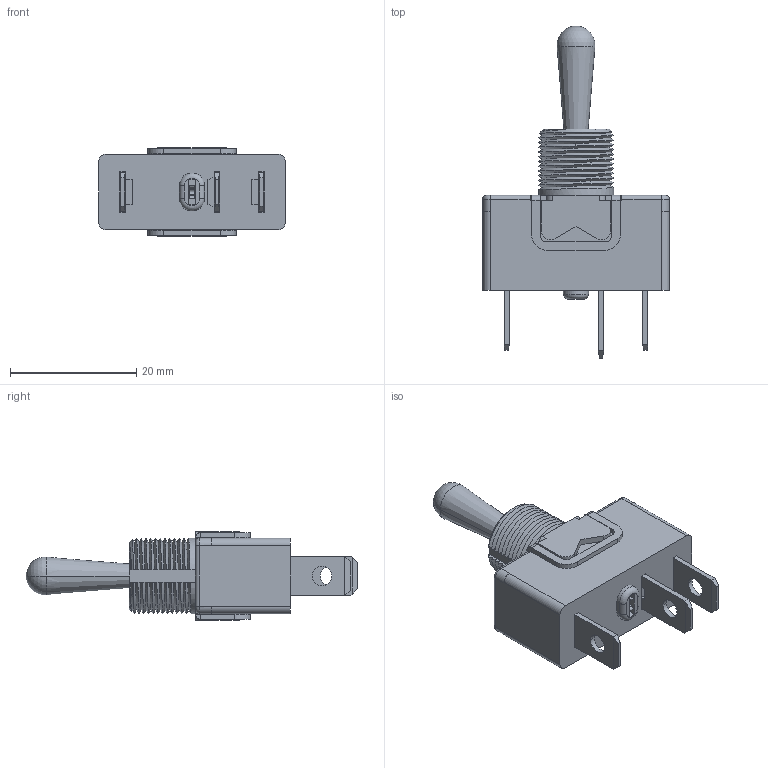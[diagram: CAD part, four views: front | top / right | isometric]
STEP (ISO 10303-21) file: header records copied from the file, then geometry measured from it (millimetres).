
FILE_DESCRIPTION((''),'2;1');
FILE_NAME('637H2_SW0001','2010-01-05T',('jlgachon'),(''),'PRO/ENGINEER BY PARAMETRIC TECHNOLOGY CORPORATION, 2008400','PRO/ENGINEER BY PARAMETRIC TECHNOLOGY CORPORATION, 2008400','');
FILE_SCHEMA(('CONFIG_CONTROL_DESIGN'));
Length unit declared in the file: millimetre
Products named in the file (1): 637H2_SW0001
Bounding box: 29.5 x 52.5 x 14 mm (x, y, z)
Volume: 5058.4 mm3; surface area: 6555.4 mm2
Topology: 2 solids, 2 shells, 574 faces, 1627 edges, 1039 vertices
Faces by surface type: plane 364, cylinder 152, bspline 34, cone 10, torus 8, sphere 6
Entity records: 24159 total; most frequent: CARTESIAN_POINT 9350, ORIENTED_EDGE 3250, DIRECTION 2869, EDGE_CURVE 1625, VECTOR 1125, LINE 1125, VERTEX_POINT 1039, AXIS2_PLACEMENT_3D 872
